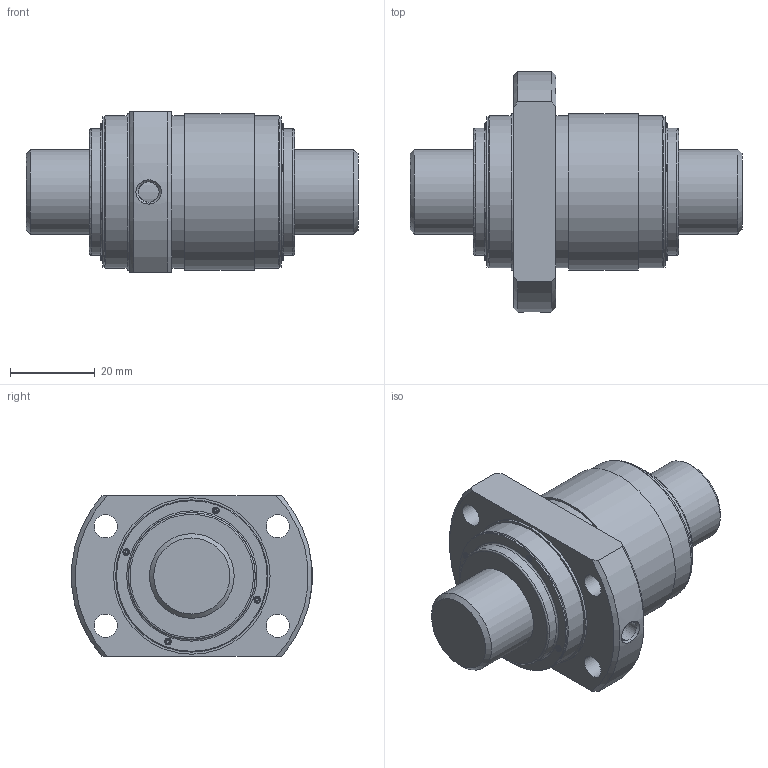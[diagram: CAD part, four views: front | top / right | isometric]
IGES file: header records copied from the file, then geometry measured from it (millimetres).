
Start section: Data from Parasolid IGES Translator 26.0.171, Copyright(c) 2006 Siemens PLM Software. All Rights Reserved.
Global section: file name: WTF2040-2ZZ+78.5LC7T_000_rev.igs; native system: By Siemens PLM Incorporated; preprocessor: XPlus GENERIC/IGES 26.0.171; author: Noname; organization: Noname; date: 20250611.063938; units: millimetre
Bounding box: 78.5 x 56.91 x 38 mm (x, y, z)
Surface area: 18554.6 mm2 (no closed solid volume)
Topology: 0 solids, 0 shells, 212 faces, 1082 edges, 1011 vertices
Faces by surface type: extrusion 125, revolution 87
